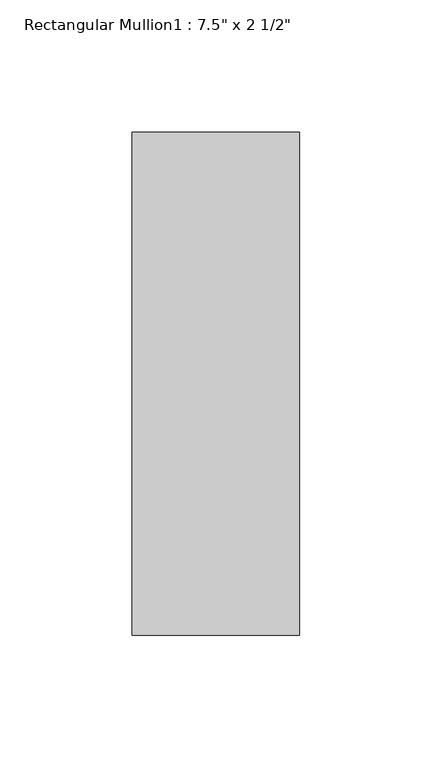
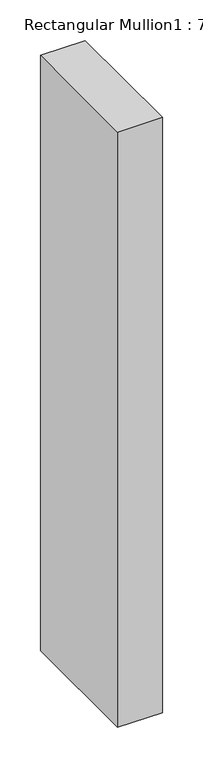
"""IFC4 building model written with IfcOpenShell, lengths in millimetres: member geometry."""

from ifc_helpers import new_model, si_unit, frame, origin, place, context, project, spatial, polyline, outline, extrude, source, transform, mapped, element, save


def member_31ca5cb0(model_context):
    return source(origin(), model_context, "Body", "SweptSolid", [
        extrude(outline(polyline([(-63.5, 165.1), (0.0, 165.1), (0.0, -25.4), (-63.5, -25.4), (-63.5, 165.1)])), frame((0.0, 0.0, -895.35), z_axis=(0.0, 0.0, 1.0), x_axis=(1.0, 0.0, 0.0)), (0.0, 0.0, 1.0), 895.35),
    ])


if __name__ == "__main__":
    model = new_model("IFC4")
    model_context = context("Model", 3, world=origin())
    ifc_project = project(units=[si_unit("LENGTHUNIT", "METRE", prefix="MILLI")], contexts=[model_context])
    site = spatial("IfcSite", under=ifc_project)
    building = spatial("IfcBuilding", under=site)
    placement = place(None, origin())
    member_shape = member_31ca5cb0(model_context)
    element("IfcMember", 1, ObjectType="Rectangular Mullion1 : 7.5\" x 2 1/2\"", at=placement, inside=building, context=model_context, shape_type="MappedRepresentation", body=[
        mapped(member_shape, transform((0.0, 0.0, 0.0), x_axis=(1.0, 0.0, 0.0), y_axis=(0.0, 1.0, 0.0), z_axis=(0.0, 0.0, 1.0))),
    ])
    save(model, "model.ifc")
